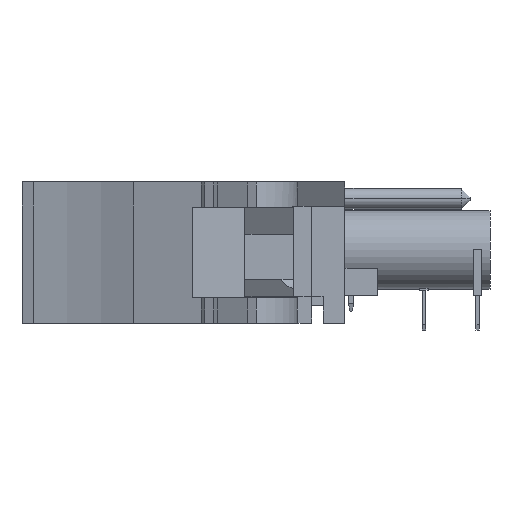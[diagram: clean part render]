
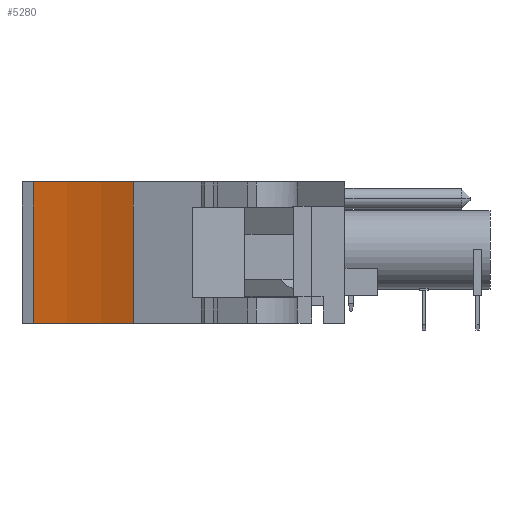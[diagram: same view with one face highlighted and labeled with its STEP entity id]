
A CAD part, front view. The second image highlights one B-rep face of the part: STEP entity #5280.
In plain terms, the highlighted cylindrical face has radius 51.46 mm (diameter 102.919 mm), a partial arc.
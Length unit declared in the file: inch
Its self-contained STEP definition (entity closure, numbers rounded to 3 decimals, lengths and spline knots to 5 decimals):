
#731=CARTESIAN_POINT('',(-1.97633,-5.95079,0.695));
#732=DIRECTION('',(0.,0.,1.));
#733=DIRECTION('',(0.435,0.9,0.));
#734=AXIS2_PLACEMENT_3D('',#731,#732,#733);
#1076=CARTESIAN_POINT('',(-1.97633,-5.95079,-0.093));
#1077=DIRECTION('',(0.,0.,1.));
#1078=DIRECTION('',(0.435,0.9,0.));
#1079=AXIS2_PLACEMENT_3D('',#1076,#1077,#1078);
#1278=DIRECTION('',(0.,0.,1.));
#1279=VECTOR('',#1278,0.788);
#1280=CARTESIAN_POINT('',(-1.653,-3.95079,-0.093));
#1281=LINE('',#1280,#1279);
#1286=DIRECTION('',(0.,0.,1.));
#1287=VECTOR('',#1286,0.788);
#1288=CARTESIAN_POINT('',(-1.09503,-4.12655,-0.093));
#1289=LINE('',#1288,#1287);
#3297=CARTESIAN_POINT('',(-1.09503,-4.12655,-0.093));
#3298=CARTESIAN_POINT('',(-1.653,-3.95079,-0.093));
#3299=VERTEX_POINT('',#3297);
#3300=VERTEX_POINT('',#3298);
#3301=CARTESIAN_POINT('',(-1.09503,-4.12655,0.695));
#3302=CARTESIAN_POINT('',(-1.653,-3.95079,0.695));
#3303=VERTEX_POINT('',#3301);
#3304=VERTEX_POINT('',#3302);
#5268=CARTESIAN_POINT('',(-1.97633,-5.95079,0.695));
#5269=DIRECTION('',(0.,0.,1.));
#5270=DIRECTION('',(0.,1.,0.));
#5271=AXIS2_PLACEMENT_3D('',#5268,#5269,#5270);
#5272=CYLINDRICAL_SURFACE('',#5271,2.02597);
#5273=ORIENTED_EDGE('',*,*,#4996,.T.);
#5274=ORIENTED_EDGE('',*,*,#5260,.T.);
#5275=ORIENTED_EDGE('',*,*,#4545,.F.);
#5277=ORIENTED_EDGE('',*,*,#5276,.F.);
#5278=EDGE_LOOP('',(#5273,#5274,#5275,#5277));
#5279=FACE_OUTER_BOUND('',#5278,.F.);
#5280=ADVANCED_FACE('',(#5279),#5272,.F.);
#735=CIRCLE('',#734,2.02597);
#1080=CIRCLE('',#1079,2.02597);
#4545=EDGE_CURVE('',#3303,#3304,#735,.T.);
#4996=EDGE_CURVE('',#3299,#3300,#1080,.T.);
#5260=EDGE_CURVE('',#3300,#3304,#1281,.T.);
#5276=EDGE_CURVE('',#3299,#3303,#1289,.T.);
